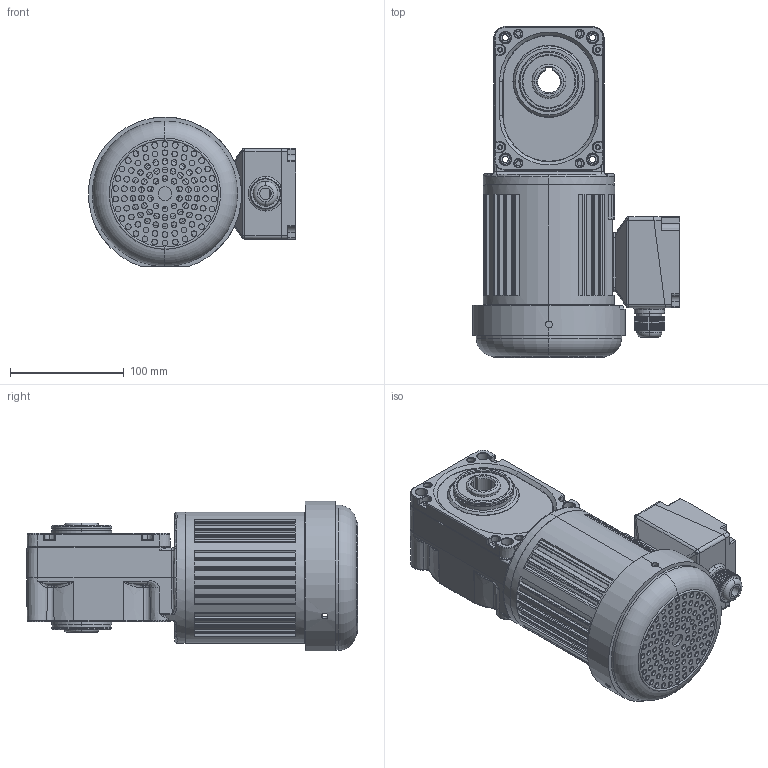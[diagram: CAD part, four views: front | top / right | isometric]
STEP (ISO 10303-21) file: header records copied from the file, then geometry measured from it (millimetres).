
FILE_DESCRIPTION (( 'STEP AP203' ), '1' );
FILE_NAME ('ZDF3-20H5K-60K-100-S3.STEP', '2020-05-05T06:07:04', ( '' ), ( '' ), 'SwSTEP 2.0', 'SolidWorks 2019', '' );
FILE_SCHEMA (( 'CONFIG_CONTROL_DESIGN' ));
Length unit declared in the file: millimetre
Products named in the file (3): 嫖萇儂; ZDF3-20H5K-60K-100-S3; ZDF3-20H5K-60K-100-S3(B)
Assembly tree (2 placements, depth 2):
  ZDF3-20H5K-60K-100-S3
    ZDF3-20H5K-60K-100-S3(B)
    嫖萇儂
Bounding box: 182.35 x 291.46 x 132 mm (x, y, z)
Volume: 1396620.5 mm3; surface area: 386971.7 mm2
Topology: 9 solids, 21 shells, 2818 faces, 7156 edges, 4448 vertices
Faces by surface type: cylinder 1157, plane 717, bspline 327, cone 227, torus 216, sphere 174
Entity records: 118877 total; most frequent: CARTESIAN_POINT 56066, ORIENTED_EDGE 14250, DIRECTION 11299, EDGE_CURVE 7125, AXIS2_PLACEMENT_3D 4500, VERTEX_POINT 4444, EDGE_LOOP 3223, FACE_OUTER_BOUND 2818
